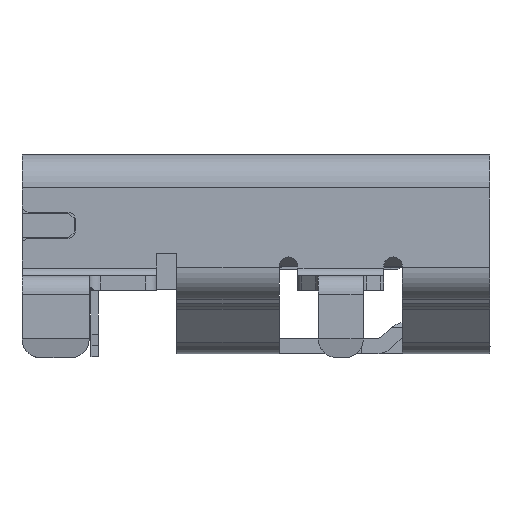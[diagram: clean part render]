
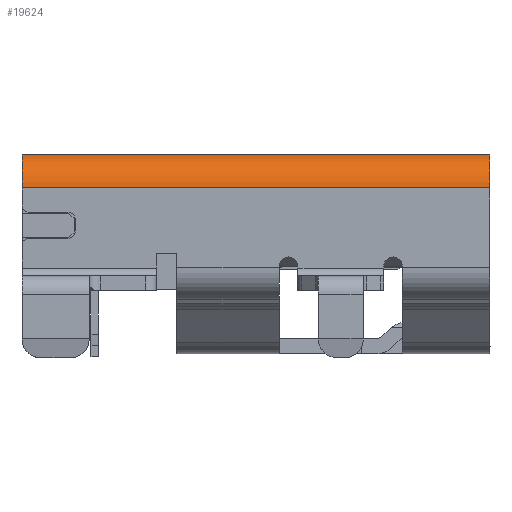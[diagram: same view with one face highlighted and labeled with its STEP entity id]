
A CAD part, left-side view. The second image highlights one B-rep face of the part: STEP entity #19624.
In plain terms, the highlighted cylindrical face has radius 0.9 mm (diameter 1.8 mm), a partial arc.
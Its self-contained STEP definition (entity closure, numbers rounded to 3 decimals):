
#968 = CARTESIAN_POINT ( 'NONE',  ( -79.904, 8.579, 158.234 ) ) ;
#1278 = VECTOR ( 'NONE', #30502, 1000. ) ;
#6774 = VECTOR ( 'NONE', #20510, 1000. ) ;
#8123 = CARTESIAN_POINT ( 'NONE',  ( -79.904, 8.83, 157.334 ) ) ;
#8384 = VERTEX_POINT ( 'NONE', #968 ) ;
#10075 = VERTEX_POINT ( 'NONE', #50627 ) ;
#11620 = CARTESIAN_POINT ( 'NONE',  ( -79.904, 8.579, 158.234 ) ) ;
#14480 = DIRECTION ( 'NONE',  ( 0., 1., 0. ) ) ;
#17565 = CIRCLE ( 'NONE', #26034, 0.9 ) ;
#18433 = ORIENTED_EDGE ( 'NONE', *, *, #51775, .F. ) ;
#19624 = ADVANCED_FACE ( 'NONE', ( #39743 ), #21741, .T. ) ;
#20210 = LINE ( 'NONE', #11620, #6774 ) ;
#20510 = DIRECTION ( 'NONE',  ( 0., -1., 0. ) ) ;
#20804 = ORIENTED_EDGE ( 'NONE', *, *, #44581, .T. ) ;
#21056 = LINE ( 'NONE', #51805, #1278 ) ;
#21741 = CYLINDRICAL_SURFACE ( 'NONE', #22225, 0.9 ) ;
#22027 = DIRECTION ( 'NONE',  ( 0., -1., 0. ) ) ;
#22225 = AXIS2_PLACEMENT_3D ( 'NONE', #8123, #22027, #44178 ) ;
#22544 = VERTEX_POINT ( 'NONE', #29659 ) ;
#25825 = ORIENTED_EDGE ( 'NONE', *, *, #47130, .T. ) ;
#26034 = AXIS2_PLACEMENT_3D ( 'NONE', #40481, #14480, #27496 ) ;
#27496 = DIRECTION ( 'NONE',  ( -1., 0., 0. ) ) ;
#27938 = AXIS2_PLACEMENT_3D ( 'NONE', #33666, #56444, #51706 ) ;
#29659 = CARTESIAN_POINT ( 'NONE',  ( -80.804, 8.579, 157.334 ) ) ;
#30502 = DIRECTION ( 'NONE',  ( 0., -1., 0. ) ) ;
#32656 = CIRCLE ( 'NONE', #27938, 0.9 ) ;
#33666 = CARTESIAN_POINT ( 'NONE',  ( -79.904, 8.579, 157.334 ) ) ;
#39743 = FACE_OUTER_BOUND ( 'NONE', #49367, .T. ) ;
#40481 = CARTESIAN_POINT ( 'NONE',  ( -79.904, -3.971, 157.334 ) ) ;
#44178 = DIRECTION ( 'NONE',  ( 1., 0., 0. ) ) ;
#44581 = EDGE_CURVE ( 'NONE', #10075, #49229, #17565, .T. ) ;
#44686 = EDGE_CURVE ( 'NONE', #8384, #22544, #32656, .T. ) ;
#47130 = EDGE_CURVE ( 'NONE', #22544, #10075, #21056, .T. ) ;
#49229 = VERTEX_POINT ( 'NONE', #51882 ) ;
#49367 = EDGE_LOOP ( 'NONE', ( #25825, #20804, #18433, #57933 ) ) ;
#50627 = CARTESIAN_POINT ( 'NONE',  ( -80.804, -3.971, 157.334 ) ) ;
#51706 = DIRECTION ( 'NONE',  ( 0., 0., 1. ) ) ;
#51775 = EDGE_CURVE ( 'NONE', #8384, #49229, #20210, .T. ) ;
#51805 = CARTESIAN_POINT ( 'NONE',  ( -80.804, 8.579, 157.334 ) ) ;
#51882 = CARTESIAN_POINT ( 'NONE',  ( -79.904, -3.971, 158.234 ) ) ;
#56444 = DIRECTION ( 'NONE',  ( 0., -1., 0. ) ) ;
#57933 = ORIENTED_EDGE ( 'NONE', *, *, #44686, .T. ) ;
